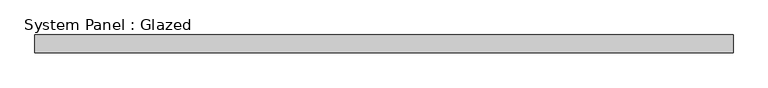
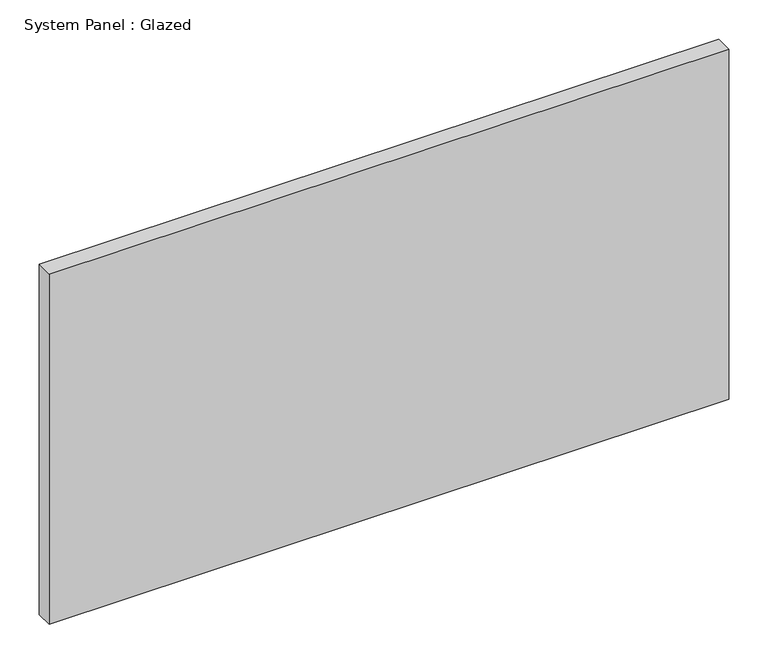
"""IFC4 building model written with IfcOpenShell, lengths in millimetres: plate geometry, System Panel : Glazed."""

from ifc_helpers import new_model, si_unit, origin, origin_with_axes, place, context, project, spatial, polyline, outline, extrude, source, transform, mapped, element, save


def system_panel_glazed_878c317c(model_context):
    return source(origin(), model_context, "Body", "SweptSolid", [
        extrude(outline(polyline([(501.1964286, 19.05), (-501.1964286, 19.05), (-501.1964286, 44.45), (501.1964286, 44.45), (501.1964286, 19.05)])), origin_with_axes(), (0.0, 0.0, 1.0), 546.1),
    ])


if __name__ == "__main__":
    model = new_model("IFC4")
    model_context = context("Model", 3, world=origin())
    ifc_project = project(units=[si_unit("LENGTHUNIT", "METRE", prefix="MILLI")], contexts=[model_context])
    site = spatial("IfcSite", under=ifc_project)
    building = spatial("IfcBuilding", under=site)
    placement = place(None, origin())
    system_panel_glazed_shape = system_panel_glazed_878c317c(model_context)
    element("IfcPlate", 1, ObjectType="System Panel : Glazed", at=placement, inside=building, context=model_context, shape_type="MappedRepresentation", body=[
        mapped(system_panel_glazed_shape, transform((0.0, 0.0, 0.0), x_axis=(1.0, 0.0, 0.0), y_axis=(0.0, 1.0, 0.0), z_axis=(0.0, 0.0, 1.0))),
    ])
    save(model, "model.ifc")
